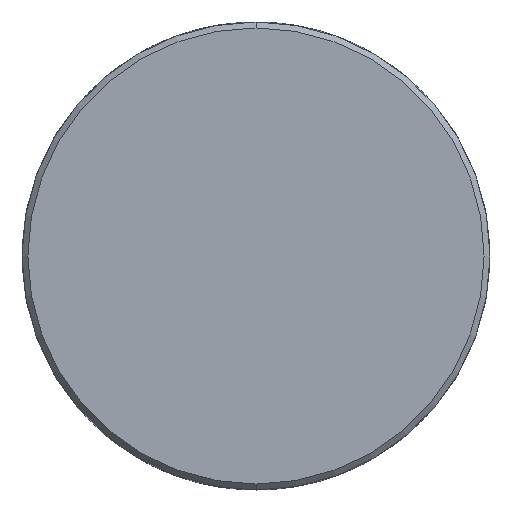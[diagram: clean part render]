
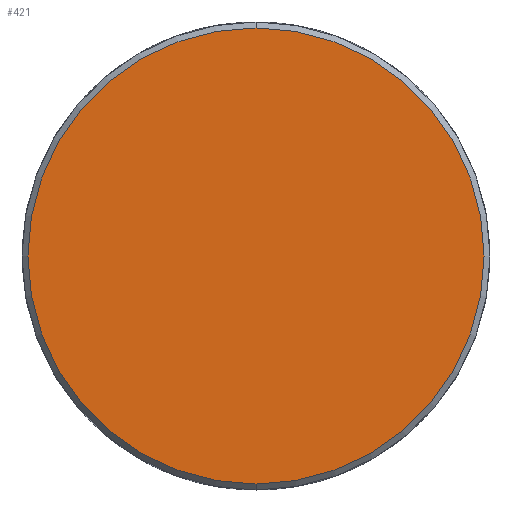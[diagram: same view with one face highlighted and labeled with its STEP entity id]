
A CAD part, front view. The second image highlights one B-rep face of the part: STEP entity #421.
In plain terms, the highlighted planar face has unit normal (0, -1, 0).
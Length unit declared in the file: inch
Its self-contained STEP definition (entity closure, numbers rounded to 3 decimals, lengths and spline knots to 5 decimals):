
#127 = EDGE_CURVE ( 'NONE', #157, #158, #2043, .T. ) ;
#157 = VERTEX_POINT ( 'NONE', #2148 ) ;
#158 = VERTEX_POINT ( 'NONE', #2211 ) ;
#421 = ADVANCED_FACE ( 'NONE', ( #2715 ), #2713, .F. ) ;
#422 = EDGE_LOOP ( 'NONE', ( #423, #425 ) ) ;
#423 = ORIENTED_EDGE ( 'NONE', *, *, #424, .T. ) ;
#424 = EDGE_CURVE ( 'NONE', #158, #157, #2775, .T. ) ;
#425 = ORIENTED_EDGE ( 'NONE', *, *, #127, .T. ) ;
#2039 = DIRECTION ( 'NONE',  ( 0., 0., 1. ) ) ;
#2040 = DIRECTION ( 'NONE',  ( 0., -1., 0. ) ) ;
#2041 = CARTESIAN_POINT ( 'NONE',  ( 0., 0., 0. ) ) ;
#2042 = AXIS2_PLACEMENT_3D ( 'NONE', #2041, #2040, #2039 ) ;
#2043 = CIRCLE ( 'NONE', #2042, 2.388 ) ;
#2148 = CARTESIAN_POINT ( 'NONE',  ( 0., 0., -2.388 ) ) ;
#2211 = CARTESIAN_POINT ( 'NONE',  ( 0., 0., 2.388 ) ) ;
#2713 = PLANE ( 'NONE',  #2714 ) ;
#2714 = AXIS2_PLACEMENT_3D ( 'NONE', #2774, #2773, #2772 ) ;
#2715 = FACE_OUTER_BOUND ( 'NONE', #422, .T. ) ;
#2768 = DIRECTION ( 'NONE',  ( 0., 0., 1. ) ) ;
#2769 = DIRECTION ( 'NONE',  ( 0., -1., 0. ) ) ;
#2770 = CARTESIAN_POINT ( 'NONE',  ( 0., 0., 0. ) ) ;
#2771 = AXIS2_PLACEMENT_3D ( 'NONE', #2770, #2769, #2768 ) ;
#2772 = DIRECTION ( 'NONE',  ( 0., 0., 1. ) ) ;
#2773 = DIRECTION ( 'NONE',  ( 0., 1., 0. ) ) ;
#2774 = CARTESIAN_POINT ( 'NONE',  ( 0., 0., 0. ) ) ;
#2775 = CIRCLE ( 'NONE', #2771, 2.388 ) ;
